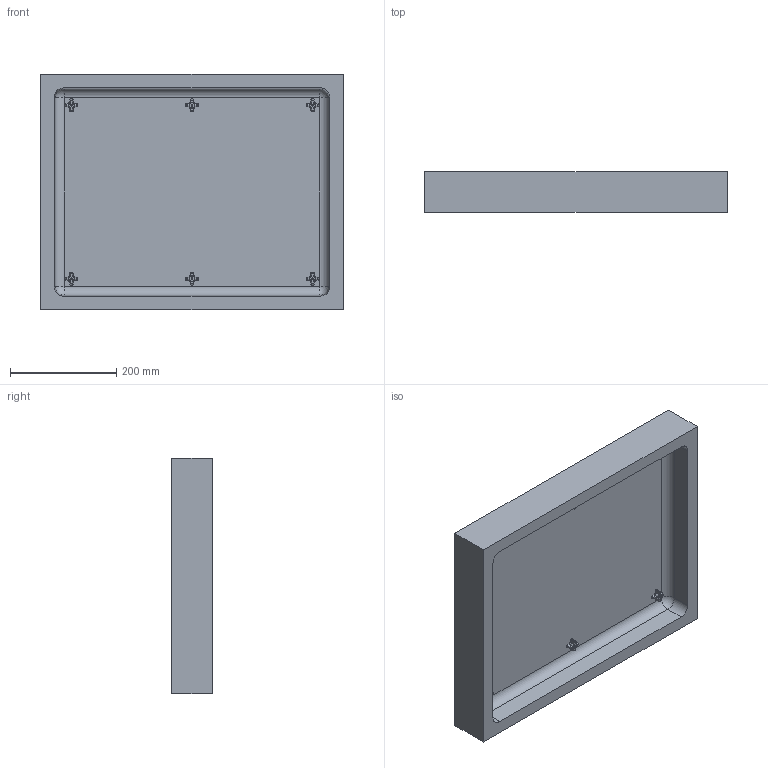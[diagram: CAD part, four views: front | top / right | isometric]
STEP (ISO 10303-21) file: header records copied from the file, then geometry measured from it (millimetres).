
FILE_DESCRIPTION (( 'STEP AP214' ), '1' );
FILE_NAME ('1560E - 932 TOP PID 2-21-2025.STEP', '2025-05-22T04:15:24', ( '' ), ( '' ), 'SwSTEP 2.0', 'SolidWorks 2021', '' );
FILE_SCHEMA (( 'AUTOMOTIVE_DESIGN' ));
Length unit declared in the file: inch
Products named in the file (1): 1560E - 932 TOP PID 2-21-2025
Bounding box: 568.7 x 76.2 x 442.59 mm (x, y, z)
Volume: 9083940.5 mm3; surface area: 737057.9 mm2
Topology: 1 solids, 1 shells, 641 faces, 1477 edges, 751 vertices
Faces by surface type: bspline 192, torus 108, cylinder 104, sphere 100, plane 71, cone 66
Entity records: 21266 total; most frequent: CARTESIAN_POINT 8494, ORIENTED_EDGE 2754, DIRECTION 2636, EDGE_CURVE 1377, AXIS2_PLACEMENT_3D 1197, VERTEX_POINT 751, CIRCLE 747, EDGE_LOOP 654
